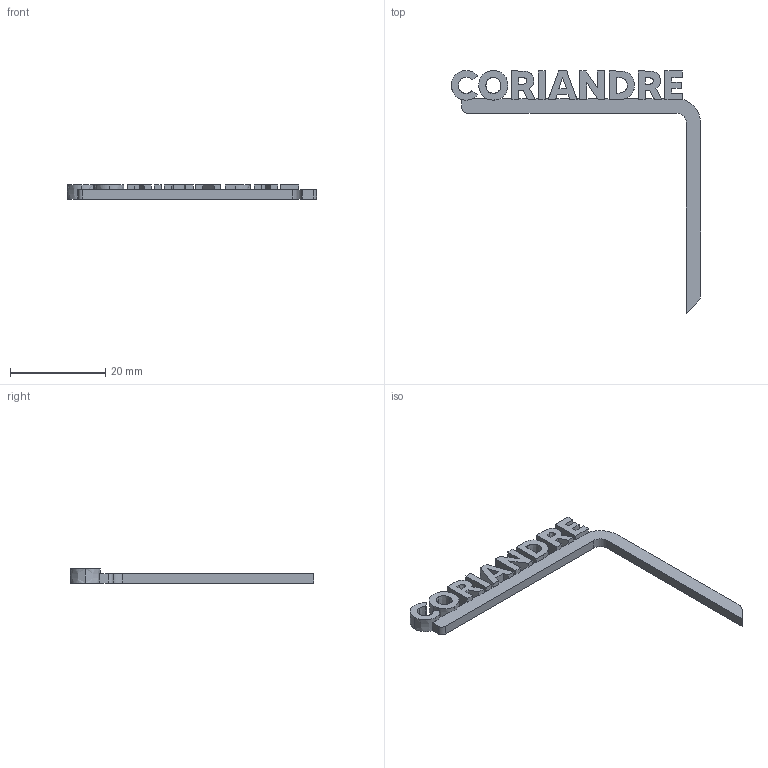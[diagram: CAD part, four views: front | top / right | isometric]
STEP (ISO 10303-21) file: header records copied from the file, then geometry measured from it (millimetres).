
FILE_DESCRIPTION(('STEP AP214'),'1');
FILE_NAME('Coriandre.stp','2025-04-24T13:21:34',(' '),(' '),'Spatial InterOp 3D',' ',' ');
FILE_SCHEMA(('AUTOMOTIVE_DESIGN { 1 0 10303 214 1 1 1 1 }'));
Length unit declared in the file: millimetre
Products named in the file (1): Coriandre
Bounding box: 52.2 x 50.92 x 3 mm (x, y, z)
Volume: 1030.1 mm3; surface area: 1873.3 mm2
Topology: 1 solids, 1 shells, 127 faces, 391 edges, 262 vertices
Faces by surface type: plane 95, extrusion 28, cylinder 4
Entity records: 5675 total; most frequent: CARTESIAN_POINT 1215, ORIENTED_EDGE 782, DIRECTION 562, EDGE_CURVE 391, VECTOR 346, LINE 318, VERTEX_POINT 262, EDGE_LOOP 141
